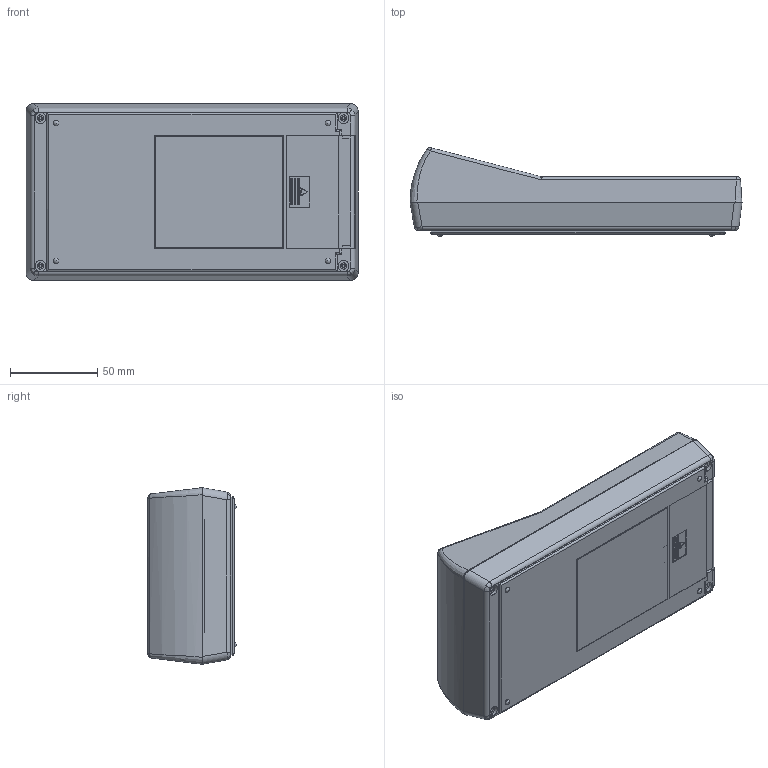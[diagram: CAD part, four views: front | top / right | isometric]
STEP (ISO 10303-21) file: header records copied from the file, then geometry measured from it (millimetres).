
FILE_DESCRIPTION (( 'STEP AP214' ), '1' );
FILE_NAME ('90-52-9V-R.STEP', '2019-12-01T16:57:53', ( 'Rudy' ), ( '' ), 'SwSTEP 2.0', 'SolidWorks 2014', '' );
FILE_SCHEMA (( 'AUTOMOTIVE_DESIGN' ));
Length unit declared in the file: millimetre
Products named in the file (5): 90-52-9V-R; 9Vdoor; 100 bessel; 100 Top Angled LCD; 100-02 BOT-9V
Assembly tree (4 placements, depth 2):
  90-52-9V-R
    100-02 BOT-9V
    100 Top Angled LCD
    100 bessel
    9Vdoor
Bounding box: 190.6 x 50.79 x 101.4 mm (x, y, z)
Volume: 125839.9 mm3; surface area: 132502.9 mm2
Topology: 4 solids, 4 shells, 552 faces, 1434 edges, 919 vertices
Faces by surface type: plane 334, cylinder 150, cone 24, bspline 24, torus 12, sphere 8
Entity records: 18121 total; most frequent: CARTESIAN_POINT 4692, ORIENTED_EDGE 2832, DIRECTION 2629, EDGE_CURVE 1416, VECTOR 969, LINE 969, VERTEX_POINT 911, AXIS2_PLACEMENT_3D 830
